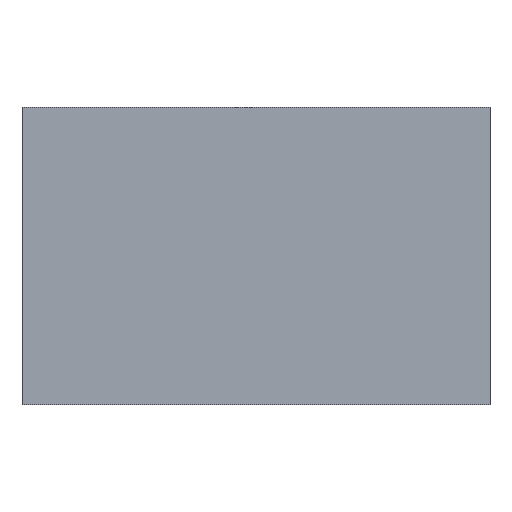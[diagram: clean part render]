
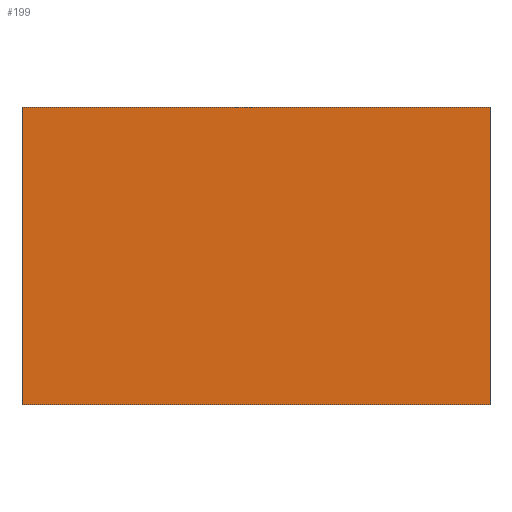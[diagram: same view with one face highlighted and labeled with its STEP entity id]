
A CAD part, top view. The second image highlights one B-rep face of the part: STEP entity #199.
In plain terms, the highlighted planar face has unit normal (0, 0, 1).
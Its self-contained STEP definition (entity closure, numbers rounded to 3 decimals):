
#63=CARTESIAN_POINT('Vertex',(0.,77.95,21.)) ;
#77=CARTESIAN_POINT('Vertex',(-245.,77.95,21.)) ;
#80=CARTESIAN_POINT('Line Origine',(-122.5,77.95,21.)) ;
#108=CARTESIAN_POINT('Vertex',(-245.,-77.95,21.)) ;
#111=CARTESIAN_POINT('Line Origine',(-245.,0.,21.)) ;
#139=CARTESIAN_POINT('Vertex',(0.,-77.95,21.)) ;
#142=CARTESIAN_POINT('Line Origine',(-122.5,-77.95,21.)) ;
#164=CARTESIAN_POINT('Line Origine',(0.,0.,21.)) ;
#188=CARTESIAN_POINT('Axis2P3D Location',(0.,0.,21.)) ;
#81=DIRECTION('Vector Direction',(1.,0.,0.)) ;
#112=DIRECTION('Vector Direction',(0.,1.,0.)) ;
#143=DIRECTION('Vector Direction',(-1.,0.,0.)) ;
#165=DIRECTION('Vector Direction',(0.,-1.,0.)) ;
#189=DIRECTION('Axis2P3D Direction',(0.,0.,1.)) ;
#190=DIRECTION('Axis2P3D XDirection',(1.,0.,0.)) ;
#191=AXIS2_PLACEMENT_3D('Plane Axis2P3D',#188,#189,#190) ;
#194=ORIENTED_EDGE('',*,*,#84,.T.) ;
#195=ORIENTED_EDGE('',*,*,#115,.T.) ;
#196=ORIENTED_EDGE('',*,*,#146,.T.) ;
#197=ORIENTED_EDGE('',*,*,#168,.T.) ;
#82=VECTOR('Line Direction',#81,1.) ;
#113=VECTOR('Line Direction',#112,1.) ;
#144=VECTOR('Line Direction',#143,1.) ;
#166=VECTOR('Line Direction',#165,1.) ;
#199=ADVANCED_FACE('PartBody',(#198),#192,.T.) ;
#84=EDGE_CURVE('',#64,#78,#83,.F.) ;
#115=EDGE_CURVE('',#78,#109,#114,.F.) ;
#146=EDGE_CURVE('',#109,#140,#145,.F.) ;
#168=EDGE_CURVE('',#140,#64,#167,.F.) ;
#193=EDGE_LOOP('',(#194,#195,#196,#197)) ;
#198=FACE_OUTER_BOUND('',#193,.T.) ;
#83=LINE('Line',#80,#82) ;
#114=LINE('Line',#111,#113) ;
#145=LINE('Line',#142,#144) ;
#167=LINE('Line',#164,#166) ;
#192=PLANE('',#191) ;
#64=VERTEX_POINT('',#63) ;
#78=VERTEX_POINT('',#77) ;
#109=VERTEX_POINT('',#108) ;
#140=VERTEX_POINT('',#139) ;
